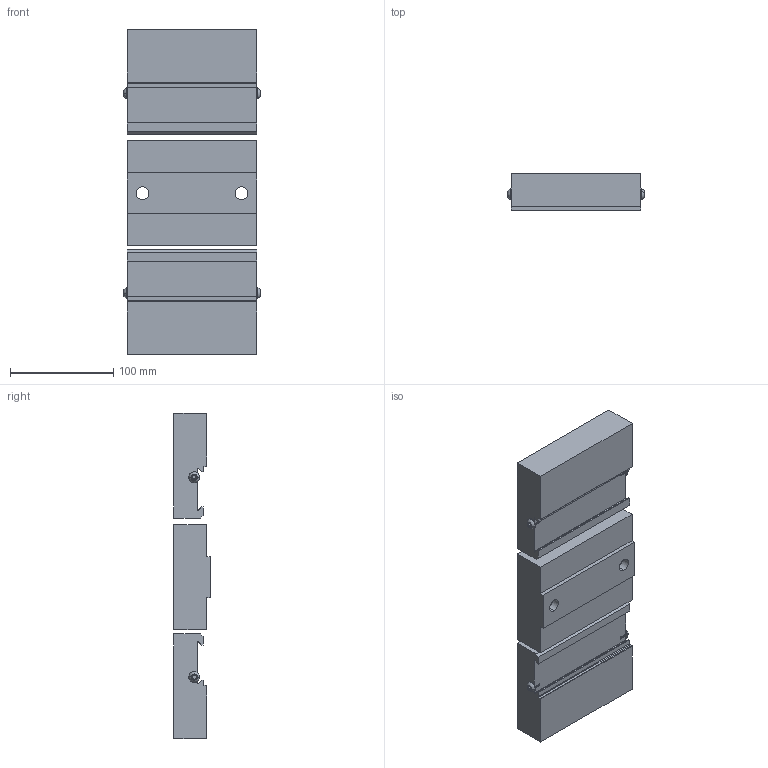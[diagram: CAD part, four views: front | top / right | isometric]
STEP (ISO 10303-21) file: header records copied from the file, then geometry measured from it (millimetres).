
FILE_DESCRIPTION (( 'STEP AP214' ), '1' );
FILE_NAME ('VA513-MJ-A.STEP', '2024-06-14T18:56:50', ( '' ), ( '' ), 'SwSTEP 2.0', 'SolidWorks 2021', '' );
FILE_SCHEMA (( 'AUTOMOTIVE_DESIGN' ));
Length unit declared in the file: inch
Products named in the file (4): VAJ-VA513-M_VAJ-VA513-M; VAJ-VA513-F_VAJ-VA513-F; M6X8MM.BHCS_M6X8MM.BHCS; VA513-MJ-A
Assembly tree (7 placements, depth 2):
  VA513-MJ-A
    VAJ-VA513-F_VAJ-VA513-F
    VAJ-VA513-M_VAJ-VA513-M  x2
    M6X8MM.BHCS_M6X8MM.BHCS  x4
Bounding box: 132.33 x 35.5 x 315.56 mm (x, y, z)
Volume: 1132182.7 mm3; surface area: 130210.7 mm2
Topology: 7 solids, 7 shells, 304 faces, 728 edges, 448 vertices
Faces by surface type: cylinder 112, plane 104, cone 68, bspline 12, sphere 8
Entity records: 4993 total; most frequent: CARTESIAN_POINT 2224, ORIENTED_EDGE 554, DIRECTION 522, EDGE_CURVE 277, AXIS2_PLACEMENT_3D 184, VERTEX_POINT 174, LINE 154, VECTOR 154
